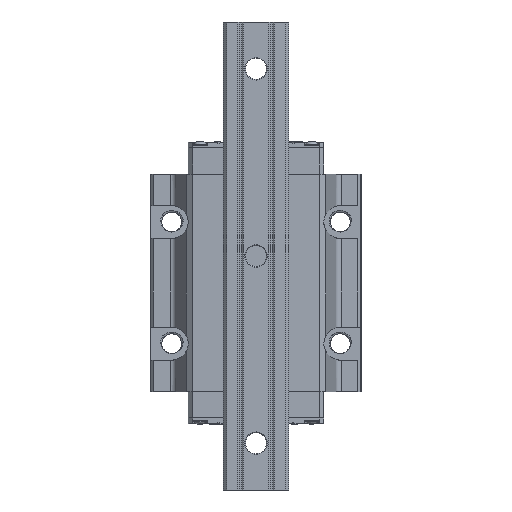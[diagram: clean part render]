
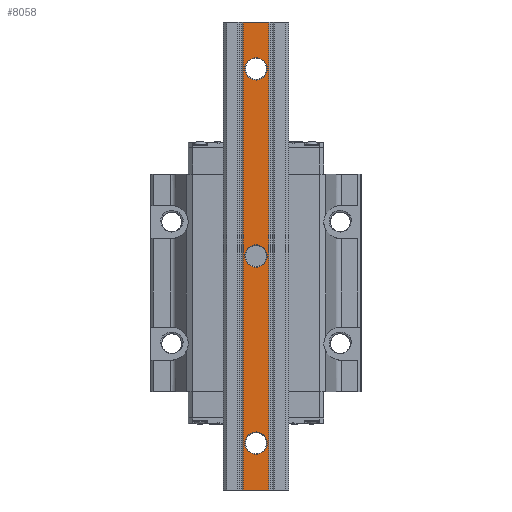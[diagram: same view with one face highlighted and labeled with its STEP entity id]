
A CAD part, front view. The second image highlights one B-rep face of the part: STEP entity #8058.
In plain terms, the highlighted planar face has unit normal (0, -1, 0).
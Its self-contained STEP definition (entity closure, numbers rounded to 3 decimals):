
#7601=FACE_BOUND('',#10670,.T.);
#7602=FACE_BOUND('',#10671,.T.);
#7603=FACE_BOUND('',#10672,.T.);
#7604=FACE_BOUND('',#10673,.T.);
#8058=ADVANCED_FACE('',(#7601,#7602,#7603,#7604),#9102,.T.);
#9102=PLANE('',#26226);
#10670=EDGE_LOOP('',(#15366,#15367,#15368,#15369));
#10671=EDGE_LOOP('',(#15370,#15371,#15372,#15373));
#10672=EDGE_LOOP('',(#15374,#15375,#15376,#15377));
#10673=EDGE_LOOP('',(#15378,#15379,#15380,#15381));
#11845=LINE('',#32418,#13486);
#11894=LINE('',#32560,#13535);
#11895=LINE('',#32562,#13536);
#11896=LINE('',#32564,#13537);
#13486=VECTOR('',#27676,1.);
#13535=VECTOR('',#27809,1.);
#13536=VECTOR('',#27812,1.);
#13537=VECTOR('',#27813,1.);
#15366=ORIENTED_EDGE('',*,*,#22867,.T.);
#15367=ORIENTED_EDGE('',*,*,#22868,.F.);
#15368=ORIENTED_EDGE('',*,*,#22869,.F.);
#15369=ORIENTED_EDGE('',*,*,#22796,.T.);
#15370=ORIENTED_EDGE('',*,*,#22870,.F.);
#15371=ORIENTED_EDGE('',*,*,#22871,.F.);
#15372=ORIENTED_EDGE('',*,*,#22872,.F.);
#15373=ORIENTED_EDGE('',*,*,#22873,.F.);
#15374=ORIENTED_EDGE('',*,*,#22874,.F.);
#15375=ORIENTED_EDGE('',*,*,#22875,.F.);
#15376=ORIENTED_EDGE('',*,*,#22876,.F.);
#15377=ORIENTED_EDGE('',*,*,#22877,.F.);
#15378=ORIENTED_EDGE('',*,*,#22878,.F.);
#15379=ORIENTED_EDGE('',*,*,#22879,.F.);
#15380=ORIENTED_EDGE('',*,*,#22880,.F.);
#15381=ORIENTED_EDGE('',*,*,#22881,.F.);
#20909=VERTEX_POINT('',#32417);
#20910=VERTEX_POINT('',#32419);
#20960=VERTEX_POINT('',#32559);
#20961=VERTEX_POINT('',#32563);
#20962=VERTEX_POINT('',#32566);
#20963=VERTEX_POINT('',#32567);
#20964=VERTEX_POINT('',#32569);
#20965=VERTEX_POINT('',#32571);
#20966=VERTEX_POINT('',#32574);
#20967=VERTEX_POINT('',#32575);
#20968=VERTEX_POINT('',#32577);
#20969=VERTEX_POINT('',#32579);
#20970=VERTEX_POINT('',#32582);
#20971=VERTEX_POINT('',#32583);
#20972=VERTEX_POINT('',#32585);
#20973=VERTEX_POINT('',#32587);
#22796=EDGE_CURVE('',#20910,#20909,#11845,.T.);
#22867=EDGE_CURVE('',#20909,#20960,#11894,.T.);
#22868=EDGE_CURVE('',#20961,#20960,#11895,.T.);
#22869=EDGE_CURVE('',#20910,#20961,#11896,.T.);
#22870=EDGE_CURVE('',#20962,#20963,#25634,.T.);
#22871=EDGE_CURVE('',#20964,#20962,#25635,.T.);
#22872=EDGE_CURVE('',#20965,#20964,#25636,.T.);
#22873=EDGE_CURVE('',#20963,#20965,#25637,.T.);
#22874=EDGE_CURVE('',#20966,#20967,#25638,.T.);
#22875=EDGE_CURVE('',#20968,#20966,#25639,.T.);
#22876=EDGE_CURVE('',#20969,#20968,#25640,.T.);
#22877=EDGE_CURVE('',#20967,#20969,#25641,.T.);
#22878=EDGE_CURVE('',#20970,#20971,#25642,.T.);
#22879=EDGE_CURVE('',#20972,#20970,#25643,.T.);
#22880=EDGE_CURVE('',#20973,#20972,#25644,.T.);
#22881=EDGE_CURVE('',#20971,#20973,#25645,.T.);
#25634=CIRCLE('',#26214,4.8);
#25635=CIRCLE('',#26215,4.8);
#25636=CIRCLE('',#26216,4.8);
#25637=CIRCLE('',#26217,4.8);
#25638=CIRCLE('',#26218,4.8);
#25639=CIRCLE('',#26219,4.8);
#25640=CIRCLE('',#26220,4.8);
#25641=CIRCLE('',#26221,4.8);
#25642=CIRCLE('',#26222,4.8);
#25643=CIRCLE('',#26223,4.8);
#25644=CIRCLE('',#26224,4.8);
#25645=CIRCLE('',#26225,4.8);
#26214=AXIS2_PLACEMENT_3D('',#32565,#27814,#27815);
#26215=AXIS2_PLACEMENT_3D('',#32568,#27816,#27817);
#26216=AXIS2_PLACEMENT_3D('',#32570,#27818,#27819);
#26217=AXIS2_PLACEMENT_3D('',#32572,#27820,#27821);
#26218=AXIS2_PLACEMENT_3D('',#32573,#27822,#27823);
#26219=AXIS2_PLACEMENT_3D('',#32576,#27824,#27825);
#26220=AXIS2_PLACEMENT_3D('',#32578,#27826,#27827);
#26221=AXIS2_PLACEMENT_3D('',#32580,#27828,#27829);
#26222=AXIS2_PLACEMENT_3D('',#32581,#27830,#27831);
#26223=AXIS2_PLACEMENT_3D('',#32584,#27832,#27833);
#26224=AXIS2_PLACEMENT_3D('',#32586,#27834,#27835);
#26225=AXIS2_PLACEMENT_3D('',#32588,#27836,#27837);
#26226=AXIS2_PLACEMENT_3D('',#32589,#27838,#27839);
#27676=DIRECTION('',(1.,0.,0.));
#27809=DIRECTION('',(0.,0.,1.));
#27812=DIRECTION('',(1.,0.,0.));
#27813=DIRECTION('',(0.,0.,1.));
#27814=DIRECTION('',(0.,-1.,0.));
#27815=DIRECTION('',(0.,0.,1.));
#27816=DIRECTION('',(0.,-1.,0.));
#27817=DIRECTION('',(1.,0.,0.));
#27818=DIRECTION('',(0.,-1.,0.));
#27819=DIRECTION('',(0.,0.,-1.));
#27820=DIRECTION('',(0.,-1.,0.));
#27821=DIRECTION('',(-1.,0.,0.));
#27822=DIRECTION('',(0.,-1.,0.));
#27823=DIRECTION('',(0.,0.,1.));
#27824=DIRECTION('',(0.,-1.,0.));
#27825=DIRECTION('',(1.,0.,0.));
#27826=DIRECTION('',(0.,-1.,0.));
#27827=DIRECTION('',(0.,0.,-1.));
#27828=DIRECTION('',(0.,-1.,0.));
#27829=DIRECTION('',(-1.,0.,0.));
#27830=DIRECTION('',(0.,-1.,0.));
#27831=DIRECTION('',(0.,0.,1.));
#27832=DIRECTION('',(0.,-1.,0.));
#27833=DIRECTION('',(1.,0.,0.));
#27834=DIRECTION('',(0.,-1.,0.));
#27835=DIRECTION('',(0.,0.,-1.));
#27836=DIRECTION('',(0.,-1.,0.));
#27837=DIRECTION('',(-1.,0.,0.));
#27838=DIRECTION('',(0.,-1.,0.));
#27839=DIRECTION('',(1.,0.,0.));
#32417=CARTESIAN_POINT('',(5.55,-26.,-100.));
#32418=CARTESIAN_POINT('',(-5.55,-26.,-100.));
#32419=CARTESIAN_POINT('',(-5.55,-26.,-100.));
#32559=CARTESIAN_POINT('',(5.55,-26.,100.));
#32560=CARTESIAN_POINT('',(5.55,-26.,-100.));
#32562=CARTESIAN_POINT('',(-5.55,-26.,100.));
#32563=CARTESIAN_POINT('',(-5.55,-26.,100.));
#32564=CARTESIAN_POINT('',(-5.55,-26.,-100.));
#32565=CARTESIAN_POINT('',(0.,-26.,-80.));
#32566=CARTESIAN_POINT('',(0.,-26.,-75.2));
#32567=CARTESIAN_POINT('',(-4.8,-26.,-80.));
#32568=CARTESIAN_POINT('',(0.,-26.,-80.));
#32569=CARTESIAN_POINT('',(4.8,-26.,-80.));
#32570=CARTESIAN_POINT('',(0.,-26.,-80.));
#32571=CARTESIAN_POINT('',(0.,-26.,-84.8));
#32572=CARTESIAN_POINT('',(0.,-26.,-80.));
#32573=CARTESIAN_POINT('',(0.,-26.,0.));
#32574=CARTESIAN_POINT('',(0.,-26.,4.8));
#32575=CARTESIAN_POINT('',(-4.8,-26.,0.));
#32576=CARTESIAN_POINT('',(0.,-26.,0.));
#32577=CARTESIAN_POINT('',(4.8,-26.,0.));
#32578=CARTESIAN_POINT('',(0.,-26.,0.));
#32579=CARTESIAN_POINT('',(0.,-26.,-4.8));
#32580=CARTESIAN_POINT('',(0.,-26.,0.));
#32581=CARTESIAN_POINT('',(0.,-26.,80.));
#32582=CARTESIAN_POINT('',(0.,-26.,84.8));
#32583=CARTESIAN_POINT('',(-4.8,-26.,80.));
#32584=CARTESIAN_POINT('',(0.,-26.,80.));
#32585=CARTESIAN_POINT('',(4.8,-26.,80.));
#32586=CARTESIAN_POINT('',(0.,-26.,80.));
#32587=CARTESIAN_POINT('',(0.,-26.,75.2));
#32588=CARTESIAN_POINT('',(0.,-26.,80.));
#32589=CARTESIAN_POINT('',(-5.55,-26.,-100.));
